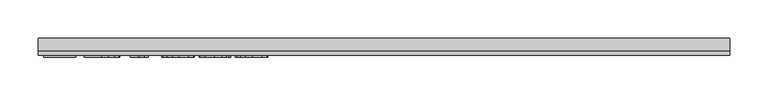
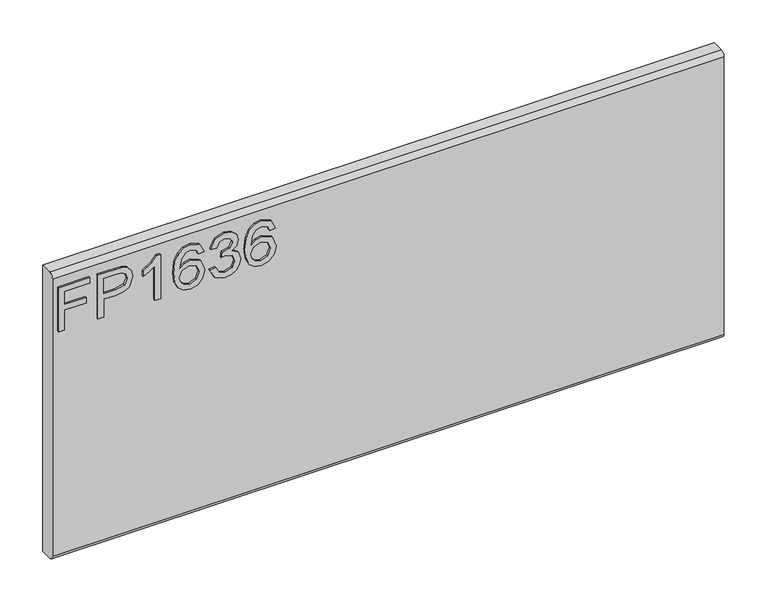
"""IFC4 building model written with IfcOpenShell, lengths in millimetres: furniture geometry."""

from ifc_helpers import new_model, si_unit, frame, origin, place, context, project, spatial, polyline, circle_curve, outline, extrude, source, transform, mapped, element, save
from ifc_brep_helpers import plane_surface, cylinder_surface, advanced_brep


def furniture_e028a27c(model_context):
    return source(origin(), model_context, "Body", "SolidModel", [
        extrude(outline(polyline([(882.65, -444.0115385), (882.65, -436.1961538), (910.9807692, -436.1961538), (910.9807692, -406.8884615), (918.7961538, -406.8884615), (918.7961538, -436.1961538), (937.3576923, -436.1961538), (937.3576923, -402.0038462), (945.1730769, -402.0038462), (945.1730769, -444.0115385), (882.65, -444.0115385)])), frame((0.0, -15.0812439, 0.0), z_axis=(0.0, 1.0, 0.0), x_axis=(0.0, 0.0, 1.0)), (0.0, 0.0, 1.0), 2.38125),
        extrude(outline(polyline([(882.65, -391.2576923), (882.65, -383.4423077), (908.05, -383.4423077), (908.05, -367.5520433), (909.4314303, -356.4490835), (913.5757212, -349.395012), (927.0847356, -344.3653846), (935.6099159, -346.2276442), (941.6546274, -351.1504207), (944.5777644, -358.7444712), (945.1730769, -368.0862981), (945.1730769, -391.2576923), (882.65, -391.2576923)]), holes=[polyline([(915.8653846, -383.4423077), (937.3576923, -383.4423077), (937.3576923, -367.2772837), (936.8234375, -359.461899), (933.2820913, -354.1880409), (926.809976, -352.1807692), (918.7350962, -355.5847356), (915.8653846, -367.0941106), (915.8653846, -383.4423077)])]), frame((0.0, -15.0812439, 0.0), z_axis=(0.0, 1.0, 0.0), x_axis=(0.0, 0.0, 1.0)), (0.0, 0.0, 1.0), 2.38125),
        extrude(outline(polyline([(882.65, -307.2423077), (945.1730769, -307.2423077), (945.1730769, -312.2795673), (936.8539663, -319.232512), (929.5423077, -330.6884615), (922.1543269, -330.6884615), (926.1001803, -322.4609375), (931.3740385, -315.0576923), (882.65, -315.0576923), (882.65, -307.2423077)])), frame((0.0, -15.0812439, 0.0), z_axis=(0.0, 1.0, 0.0), x_axis=(0.0, 0.0, 1.0)), (0.0, 0.0, 1.0), 2.38125),
        extrude(outline(polyline([(928.5653846, -248.6269231), (940.7616587, -254.396875), (945.1730769, -266.7457933), (943.3909555, -275.8166767), (938.0445913, -282.8192308), (927.4014724, -287.9480769), (911.8355769, -289.6576923), (897.9907452, -288.1178936), (888.6947115, -283.4984976), (883.4284856, -276.4367939), (881.6730769, -267.5700721), (884.3214543, -257.3276442), (891.9536659, -250.2296875), (902.7379808, -247.65), (917.1323317, -253.1299279), (922.7038462, -266.409976), (920.6660457, -274.9504207), (914.4305288, -281.8423077), (928.3593149, -279.6213341), (935.4649038, -274.2864183), (937.3576923, -267.2342548), (934.1063702, -259.4036058), (927.5884615, -256.4423077), (928.5653846, -248.6269231)]), holes=[polyline([(902.8600962, -281.8423077), (911.5684495, -277.957512), (914.8884615, -268.5012019), (911.5684495, -258.9227764), (902.4784856, -255.4653846), (892.9840144, -258.9685697), (889.4884615, -268.180649), (891.1751803, -275.2251803), (896.0903245, -280.0334736), (902.8600962, -281.8423077)])]), frame((0.0, -15.0812439, 0.0), z_axis=(0.0, 1.0, 0.0), x_axis=(0.0, 0.0, 1.0)), (0.0, 0.0, 1.0), 2.38125),
        extrude(outline(polyline([(899.2576923, -240.8115385), (886.5729567, -234.5989183), (881.6730769, -220.8914663), (883.1079327, -212.5380108), (887.4125, -205.7644231), (893.7777644, -201.2766827), (901.3947115, -199.7807692), (911.5608173, -202.7725962), (916.9033654, -211.2901442), (922.0780048, -204.8790865), (929.2828125, -202.7115385), (937.166887, -204.9935697), (943.0284255, -211.5878005), (945.1730769, -221.0135817), (940.8227163, -233.4388221), (928.5653846, -239.8346154), (927.5884615, -232.0192308), (934.9153846, -228.1878606), (937.3576923, -220.7388221), (934.9382813, -213.3813702), (928.8248798, -210.5269231), (921.9253606, -214.4651442), (919.7730769, -224.5854567), (911.9576923, -225.4555288), (912.8125, -219.975601), (909.6146034, -211.0917067), (901.5320913, -207.5961538), (892.9534856, -211.1222356), (889.4884615, -220.6167067), (892.0070913, -228.6839543), (900.2346154, -232.9961538), (899.2576923, -240.8115385)])), frame((0.0, -15.0812439, 0.0), z_axis=(0.0, 1.0, 0.0), x_axis=(0.0, 0.0, 1.0)), (0.0, 0.0, 1.0), 2.38125),
        extrude(outline(polyline([(928.5653846, -152.8884615), (940.7616587, -158.6584135), (945.1730769, -171.0073317), (943.3909555, -180.0782151), (938.0445913, -187.0807692), (927.4014724, -192.2096154), (911.8355769, -193.9192308), (897.9907452, -192.3794321), (888.6947115, -187.7600361), (883.4284856, -180.6983323), (881.6730769, -171.8316106), (884.3214543, -161.5891827), (891.9536659, -154.491226), (902.7379808, -151.9115385), (917.1323317, -157.3914663), (922.7038462, -170.6715144), (920.6660457, -179.2119591), (914.4305288, -186.1038462), (928.3593149, -183.8828726), (935.4649038, -178.5479567), (937.3576923, -171.4957933), (934.1063702, -163.6651442), (927.5884615, -160.7038462), (928.5653846, -152.8884615)]), holes=[polyline([(902.8600962, -186.1038462), (911.5684495, -182.2190505), (914.8884615, -172.7627404), (911.5684495, -163.1843149), (902.4784856, -159.7269231), (892.9840144, -163.2301082), (889.4884615, -172.4421875), (891.1751803, -179.4867188), (896.0903245, -184.295012), (902.8600962, -186.1038462)])]), frame((0.0, -15.0812439, 0.0), z_axis=(0.0, 1.0, 0.0), x_axis=(0.0, 0.0, 1.0)), (0.0, 0.0, 1.0), 2.38125),
        advanced_brep(
        [(450.85, 9.5250061, 965.2), (450.85, -6.7309939, 965.2), (450.85, -12.6999939, 959.231), (450.85, -12.6999939, 564.769), (450.85, -6.7309939, 558.8), (450.85, 9.5250061, 558.8), (-450.85, 9.5250061, 965.2), (-450.85, 9.5250061, 558.8), (-450.85, -6.7309939, 558.8), (-450.85, -12.6999939, 564.769), (-450.85, -12.6999939, 959.2310121), (-450.85, -6.7309939, 965.2)],
        [
            (0, 1),
            (1, 2, circle_curve(frame((450.85, -6.7309939, 959.231), z_axis=(1.0, 0.0, 0.0), x_axis=(0.0, 1.0, 0.0)), 5.969)),
            (2, 3),
            (3, 4, circle_curve(frame((450.85, -6.7309939, 564.769), z_axis=(1.0, 0.0, 0.0), x_axis=(0.0, 1.0, 0.0)), 5.969)),
            (4, 5),
            (5, 0),
            (6, 7),
            (7, 8),
            (8, 9, circle_curve(frame((-450.85, -6.7309939, 564.769), z_axis=(-1.0, 0.0, 0.0), x_axis=(0.0, 1.0, 0.0)), 5.969)),
            (9, 10),
            (10, 11, circle_curve(frame((-450.85, -6.7309939, 959.231), z_axis=(-1.0, 0.0, 0.0), x_axis=(0.0, 1.0, 0.0)), 5.969)),
            (11, 6),
            (0, 6),
            (11, 1),
            (10, 2),
            (9, 3),
            (8, 4),
            (7, 5),
        ],
        [
            plane_surface(frame((450.85, -6.7309939, 965.2), z_axis=(1.0, 0.0, 0.0), x_axis=(0.0, -1.0, 0.0))),
            plane_surface(frame((-450.85, -6.7309939, 965.2), z_axis=(-1.0, 0.0, 0.0), x_axis=(0.0, 1.0, 0.0))),
            plane_surface(frame((450.85, 9.5250061, 965.2), z_axis=(0.0, 0.0, 1.0), x_axis=(-1.0, 0.0, 0.0))),
            cylinder_surface(frame((-450.85, -6.7309939, 959.231), z_axis=(1.0, 0.0, 0.0), x_axis=(0.0, 1.0, 0.0)), 5.969),
            plane_surface(frame((450.85, -12.6999939, 959.2310121), z_axis=(0.0, -1.0, 0.0), x_axis=(-1.0, 0.0, 0.0))),
            cylinder_surface(frame((-450.85, -6.7309939, 564.769), z_axis=(1.0, 0.0, 0.0), x_axis=(0.0, 1.0, 0.0)), 5.969),
            plane_surface(frame((450.85, -6.7309939, 558.8), z_axis=(0.0, 0.0, -1.0), x_axis=(-1.0, 0.0, 0.0))),
            plane_surface(frame((450.85, 9.5250061, 558.8), z_axis=(0.0, 1.0, 0.0), x_axis=(-1.0, 0.0, 0.0))),
        ],
        [
            (0, [[1, 2, 3, 4, 5, 6]]),
            (1, [[7, 8, 9, 10, 11, 12]]),
            (2, [[-1, 13, -12, 14]]),
            (3, [[-2, -14, -11, 15]]),
            (4, [[-3, -15, -10, 16]]),
            (5, [[-4, -16, -9, 17]]),
            (6, [[-5, -17, -8, 18]]),
            (7, [[-6, -18, -7, -13]]),
        ],
    ),
    ])


if __name__ == "__main__":
    model = new_model("IFC4")
    model_context = context("Model", 3, world=origin())
    ifc_project = project(units=[si_unit("LENGTHUNIT", "METRE", prefix="MILLI")], contexts=[model_context])
    site = spatial("IfcSite", under=ifc_project)
    building = spatial("IfcBuilding", under=site)
    placement = place(None, origin())
    furniture_shape = furniture_e028a27c(model_context)
    element("IfcFurniture", 1, ObjectType="HermanMiller_Ethospace_E1420_FaceTile : Ptd 16\"H x 36\"W", at=placement, inside=building, context=model_context, shape_type="MappedRepresentation", body=[
        mapped(furniture_shape, transform((0.0, 0.0, 0.0), x_axis=(1.0, 0.0, 0.0), y_axis=(0.0, 1.0, 0.0), z_axis=(0.0, 0.0, 1.0))),
    ])
    save(model, "model.ifc")
